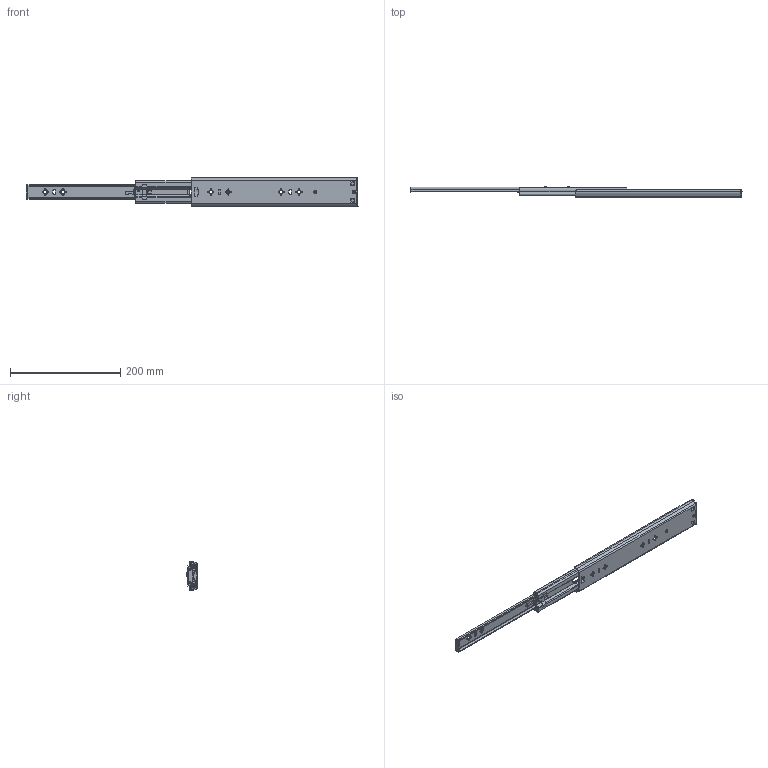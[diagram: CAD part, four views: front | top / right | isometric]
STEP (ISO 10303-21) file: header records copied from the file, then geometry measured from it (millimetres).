
FILE_DESCRIPTION((''),'2;1');
FILE_NAME('1053-HD-300_ASM','2023-11-18T',('jishu015'),(''),'PRO/ENGINEER BY PARAMETRIC TECHNOLOGY CORPORATION, 2010280','PRO/ENGINEER BY PARAMETRIC TECHNOLOGY CORPORATION, 2010280','');
FILE_SCHEMA(('CONFIG_CONTROL_DESIGN'));
Products named in the file (25): 1053-02-18WAIKE__________; MANIFOLD_SOLID_BREP_51___; MANIFOLD_SOLID_BREP_52___; MANIFOLD_SOLID_BREP_53___; ADMI29141B9BC7PD_ASM____ASM; ASM0001____ASM; 53_ASM____ASM; 1053-02-18XTPJG-DAZHUJIA_______; 1053-02-18XTPJG-5-6GANZHU1; ZHONGGUIJIAO-11_____; 1053-02-18XTPJG-DAZHUJIA1_ASM; 1053-02-18WAIKE___________ASM; 1053-02-18ZHONGGUI__________; 53ZHIDIJIAO__________; 3X6-MAODING___; 1053-02-18ZHONGGUI___________ASM; 1053XIAOZHUJIA-14GE__________; 53-5-6GANZHU__________; 1053XIAOZHUJIA-14GE___________ASM; 1053-02-18NEIGUI__________; 53BACHA_________; XIAOMAODING___; 3X4MAODING___; 1053-02-18NEIGUI___________ASM; 1053-HD-300_ASM
Assembly tree (51 placements, depth 6):
  1053-HD-300_ASM
    1053-02-18WAIKE___________ASM
      1053-02-18WAIKE__________
      53_ASM____ASM
        ASM0001____ASM
          ADMI29141B9BC7PD_ASM____ASM
            MANIFOLD_SOLID_BREP_51___
            MANIFOLD_SOLID_BREP_52___
            MANIFOLD_SOLID_BREP_53___
      1053-02-18XTPJG-DAZHUJIA1_ASM
        1053-02-18XTPJG-DAZHUJIA_______
        1053-02-18XTPJG-5-6GANZHU1  x12
        ZHONGGUIJIAO-11_____  x2
    1053-02-18ZHONGGUI___________ASM
      1053-02-18ZHONGGUI__________
      53ZHIDIJIAO__________
      3X6-MAODING___
    1053XIAOZHUJIA-14GE___________ASM
      1053XIAOZHUJIA-14GE__________
      53-5-6GANZHU__________  x16
    1053-02-18NEIGUI___________ASM
      1053-02-18NEIGUI__________
      53BACHA_________
      XIAOMAODING___
      3X4MAODING___
Bounding box: 602.1 x 19.75 x 53 mm (x, y, z)
Volume: 117490.1 mm3; surface area: 144063.8 mm2
Topology: 43 solids, 43 shells, 2433 faces, 6726 edges, 4252 vertices
Faces by surface type: plane 1090, cylinder 934, bspline 178, sphere 86, cone 83, torus 60, extrusion 2
Entity records: 92107 total; most frequent: CARTESIAN_POINT 33951, ORIENTED_EDGE 12638, DIRECTION 11324, EDGE_CURVE 6319, VERTEX_POINT 4074, AXIS2_PLACEMENT_3D 3806, VECTOR 3712, LINE 3710
